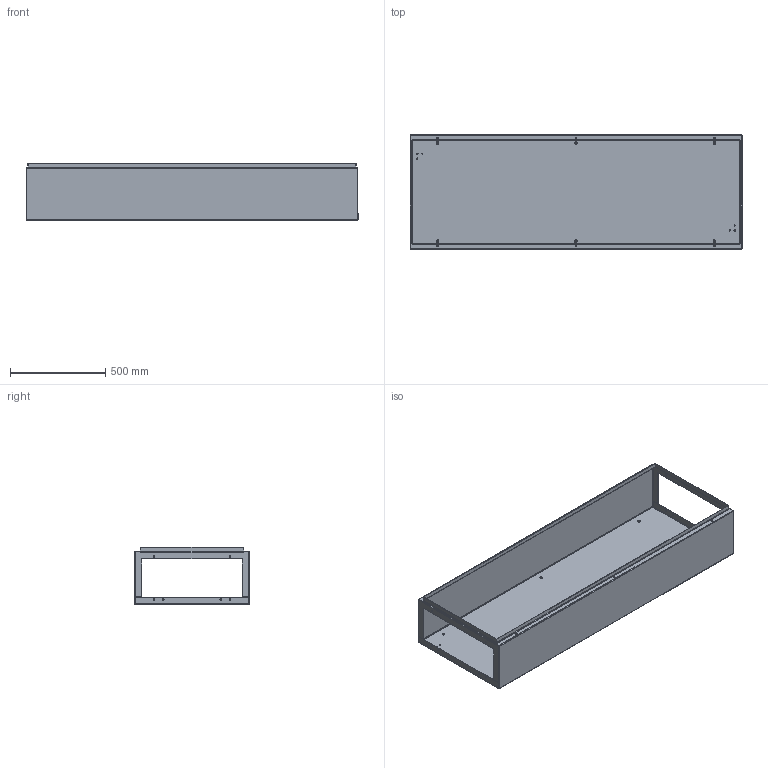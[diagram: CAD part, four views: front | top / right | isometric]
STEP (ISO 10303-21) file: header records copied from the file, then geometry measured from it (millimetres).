
FILE_DESCRIPTION (( 'STEP AP203' ), '1' );
FILE_NAME ('pce186300.STEP', '2013-04-16T06:38:01', ( '' ), ( '' ), 'SwSTEP 2.0', 'SolidWorks 2010', '' );
FILE_SCHEMA (( 'CONFIG_CONTROL_DESIGN' ));
Length unit declared in the file: inch
Products named in the file (4): pce186300; 87548351; 87553422; 87553432
Assembly tree (4 placements, depth 3):
  pce186300
    87548351
      87553432  x2
      87553422
Bounding box: 1739.06 x 600.02 x 301.13 mm (x, y, z)
Volume: 4221970.8 mm3; surface area: 4637448.7 mm2
Topology: 3 solids, 3 shells, 368 faces, 840 edges, 496 vertices
Faces by surface type: plane 176, cylinder 76, torus 72, cone 36, bspline 8
Entity records: 10458 total; most frequent: CARTESIAN_POINT 2294, DIRECTION 1716, ORIENTED_EDGE 1516, EDGE_CURVE 758, AXIS2_PLACEMENT_3D 652, VERTEX_POINT 446, VECTOR 412, LINE 412
